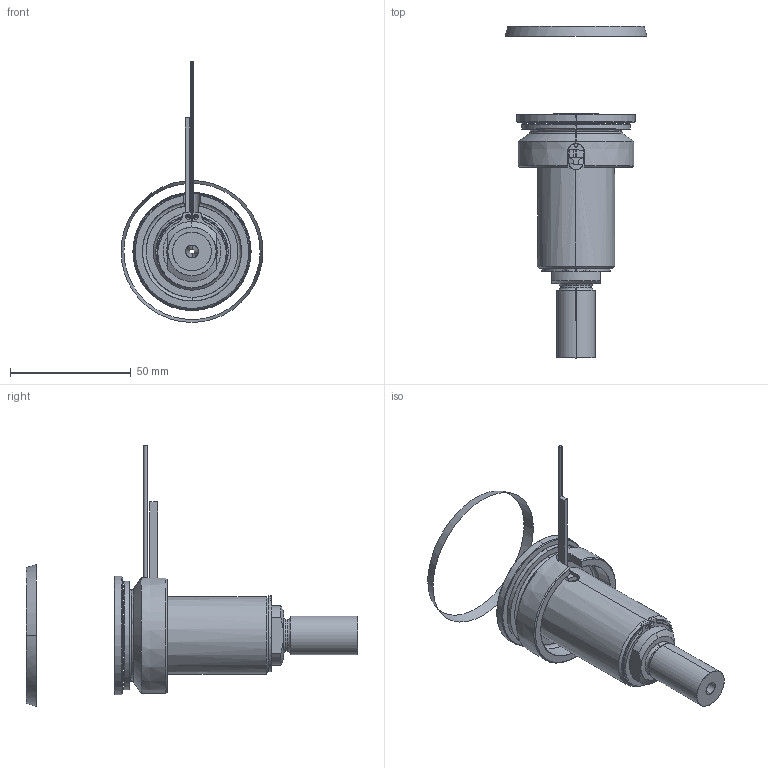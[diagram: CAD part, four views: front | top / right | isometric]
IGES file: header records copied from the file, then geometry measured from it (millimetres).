
Start section: SolidWorks IGES file using analytic representation for surfaces
Global section: file name: C:\Documents and Settings\ws-20\Desktop\TEMPORANEA\UGBE5001-S-A-P-3 [Ød-2.0 P-25 ØC-12].IGS; native system: SolidWorks 2012; preprocessor: SolidWorks 2012; author: ws-20; date: 120306.144919; units: millimetre
Bounding box: 58.79 x 137.44 x 108.04 mm (x, y, z)
Surface area: 33134.6 mm2 (no closed solid volume)
Topology: 0 solids, 0 shells, 114 faces, 2188 edges, 2188 vertices
Faces by surface type: revolution 69, bspline 45
